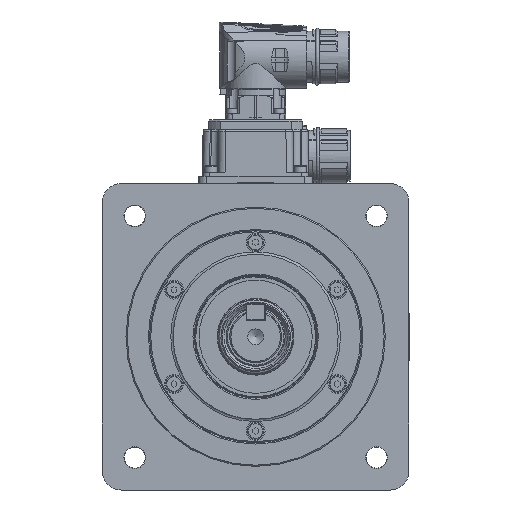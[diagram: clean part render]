
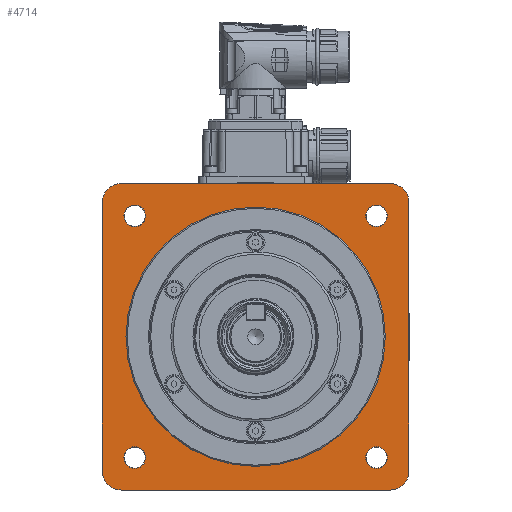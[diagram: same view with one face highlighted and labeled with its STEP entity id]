
A CAD part, front view. The second image highlights one B-rep face of the part: STEP entity #4714.
In plain terms, the highlighted planar face has unit normal (0, -1, 0).
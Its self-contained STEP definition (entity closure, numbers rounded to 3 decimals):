
#4714 = ADVANCED_FACE( '', ( #11225, #11226, #11227, #11228, #11229, #11230 ), #11231, .F. );
#11225 = FACE_BOUND( '', #25073, .T. );
#11226 = FACE_OUTER_BOUND( '', #25074, .T. );
#11227 = FACE_BOUND( '', #25075, .T. );
#11228 = FACE_BOUND( '', #25076, .T. );
#11229 = FACE_BOUND( '', #25077, .T. );
#11230 = FACE_BOUND( '', #25078, .T. );
#11231 = PLANE( '', #25079 );
#25073 = EDGE_LOOP( '', ( #46541 ) );
#25074 = EDGE_LOOP( '', ( #46542, #46543, #46544, #46545, #46546, #46547, #46548, #46549 ) );
#25075 = EDGE_LOOP( '', ( #46550 ) );
#25076 = EDGE_LOOP( '', ( #46551 ) );
#25077 = EDGE_LOOP( '', ( #46552 ) );
#25078 = EDGE_LOOP( '', ( #46553 ) );
#25079 = AXIS2_PLACEMENT_3D( '', #46554, #46555, #46556 );
#46541 = ORIENTED_EDGE( '', *, *, #64559, .F. );
#46542 = ORIENTED_EDGE( '', *, *, #64432, .F. );
#46543 = ORIENTED_EDGE( '', *, *, #61283, .T. );
#46544 = ORIENTED_EDGE( '', *, *, #64560, .F. );
#46545 = ORIENTED_EDGE( '', *, *, #63504, .T. );
#46546 = ORIENTED_EDGE( '', *, *, #61152, .F. );
#46547 = ORIENTED_EDGE( '', *, *, #64561, .T. );
#46548 = ORIENTED_EDGE( '', *, *, #63244, .F. );
#46549 = ORIENTED_EDGE( '', *, *, #63826, .T. );
#46550 = ORIENTED_EDGE( '', *, *, #64562, .F. );
#46551 = ORIENTED_EDGE( '', *, *, #63670, .F. );
#46552 = ORIENTED_EDGE( '', *, *, #63086, .F. );
#46553 = ORIENTED_EDGE( '', *, *, #63813, .F. );
#46554 = CARTESIAN_POINT( '', ( 0., -32.91, 55. ) );
#46555 = DIRECTION( '', ( 0., 1., 0. ) );
#46556 = DIRECTION( '', ( 0., 0., 1. ) );
#61152 = EDGE_CURVE( '', #71586, #71589, #71590, .F. );
#61283 = EDGE_CURVE( '', #71814, #71812, #71815, .T. );
#63086 = EDGE_CURVE( '', #74737, #74737, #74738, .F. );
#63244 = EDGE_CURVE( '', #74979, #74981, #74982, .F. );
#63504 = EDGE_CURVE( '', #75371, #71589, #75372, .T. );
#63670 = EDGE_CURVE( '', #75622, #75622, #75623, .F. );
#63813 = EDGE_CURVE( '', #75836, #75836, #75837, .F. );
#63826 = EDGE_CURVE( '', #74979, #75854, #75856, .T. );
#64432 = EDGE_CURVE( '', #71814, #75854, #76769, .F. );
#64559 = EDGE_CURVE( '', #76951, #76951, #76952, .T. );
#64560 = EDGE_CURVE( '', #75371, #71812, #76953, .F. );
#64561 = EDGE_CURVE( '', #71586, #74981, #76954, .T. );
#64562 = EDGE_CURVE( '', #76955, #76955, #76956, .F. );
#71586 = VERTEX_POINT( '', #89190 );
#71589 = VERTEX_POINT( '', #89194 );
#71590 = CIRCLE( '', #89195, 8. );
#71812 = VERTEX_POINT( '', #89565 );
#71814 = VERTEX_POINT( '', #89568 );
#71815 = LINE( '', #89569, #89570 );
#74737 = VERTEX_POINT( '', #95944 );
#74738 = CIRCLE( '', #95945, 4.6 );
#74979 = VERTEX_POINT( '', #96610 );
#74981 = VERTEX_POINT( '', #96613 );
#74982 = CIRCLE( '', #96614, 8. );
#75371 = VERTEX_POINT( '', #97580 );
#75372 = LINE( '', #97581, #97582 );
#75622 = VERTEX_POINT( '', #98259 );
#75623 = CIRCLE( '', #98260, 4.6 );
#75836 = VERTEX_POINT( '', #98877 );
#75837 = CIRCLE( '', #98878, 4.6 );
#75854 = VERTEX_POINT( '', #98976 );
#75856 = LINE( '', #98979, #98980 );
#76769 = CIRCLE( '', #101155, 8. );
#76951 = VERTEX_POINT( '', #101536 );
#76952 = CIRCLE( '', #101537, 55. );
#76953 = CIRCLE( '', #101538, 8. );
#76954 = LINE( '', #101539, #101540 );
#76955 = VERTEX_POINT( '', #101541 );
#76956 = CIRCLE( '', #101542, 4.6 );
#89190 = CARTESIAN_POINT( '', ( 65., -32.91, -57. ) );
#89194 = CARTESIAN_POINT( '', ( 57., -32.91, -65. ) );
#89195 = AXIS2_PLACEMENT_3D( '', #113907, #113908, #113909 );
#89565 = CARTESIAN_POINT( '', ( -65., -32.91, -57. ) );
#89568 = CARTESIAN_POINT( '', ( -65., -32.91, 57. ) );
#89569 = CARTESIAN_POINT( '', ( -65., -32.91, 65. ) );
#89570 = VECTOR( '', #114080, 1000. );
#95944 = CARTESIAN_POINT( '', ( 51.265, -32.91, -46.665 ) );
#95945 = AXIS2_PLACEMENT_3D( '', #116284, #116285, #116286 );
#96610 = CARTESIAN_POINT( '', ( 57., -32.91, 65. ) );
#96613 = CARTESIAN_POINT( '', ( 65., -32.91, 57. ) );
#96614 = AXIS2_PLACEMENT_3D( '', #116435, #116436, #116437 );
#97580 = CARTESIAN_POINT( '', ( -57., -32.91, -65. ) );
#97581 = CARTESIAN_POINT( '', ( -65., -32.91, -65. ) );
#97582 = VECTOR( '', #116739, 1000. );
#98259 = CARTESIAN_POINT( '', ( -51.265, -32.91, -46.665 ) );
#98260 = AXIS2_PLACEMENT_3D( '', #116904, #116905, #116906 );
#98877 = CARTESIAN_POINT( '', ( 51.265, -32.91, 55.866 ) );
#98878 = AXIS2_PLACEMENT_3D( '', #117062, #117063, #117064 );
#98976 = CARTESIAN_POINT( '', ( -57., -32.91, 65. ) );
#98979 = CARTESIAN_POINT( '', ( 65., -32.91, 65. ) );
#98980 = VECTOR( '', #117079, 1000. );
#101155 = AXIS2_PLACEMENT_3D( '', #117796, #117797, #117798 );
#101536 = CARTESIAN_POINT( '', ( 0., -32.91, -55. ) );
#101537 = AXIS2_PLACEMENT_3D( '', #117911, #117912, #117913 );
#101538 = AXIS2_PLACEMENT_3D( '', #117914, #117915, #117916 );
#101539 = CARTESIAN_POINT( '', ( 65., -32.91, -65. ) );
#101540 = VECTOR( '', #117917, 1000. );
#101541 = CARTESIAN_POINT( '', ( -51.265, -32.91, 55.866 ) );
#101542 = AXIS2_PLACEMENT_3D( '', #117918, #117919, #117920 );
#113907 = CARTESIAN_POINT( '', ( 57., -32.91, -57. ) );
#113908 = DIRECTION( '', ( 0., -1., 0. ) );
#113909 = DIRECTION( '', ( 0., 0., -1. ) );
#114080 = DIRECTION( '', ( 0., 0., -1. ) );
#116284 = CARTESIAN_POINT( '', ( 51.265, -32.91, -51.265 ) );
#116285 = DIRECTION( '', ( 0., 1., 0. ) );
#116286 = DIRECTION( '', ( 0., 0., 1. ) );
#116435 = CARTESIAN_POINT( '', ( 57., -32.91, 57. ) );
#116436 = DIRECTION( '', ( 0., -1., 0. ) );
#116437 = DIRECTION( '', ( 0., 0., -1. ) );
#116739 = DIRECTION( '', ( 1., 0., 0. ) );
#116904 = CARTESIAN_POINT( '', ( -51.265, -32.91, -51.265 ) );
#116905 = DIRECTION( '', ( 0., 1., 0. ) );
#116906 = DIRECTION( '', ( 0., 0., 1. ) );
#117062 = CARTESIAN_POINT( '', ( 51.265, -32.91, 51.265 ) );
#117063 = DIRECTION( '', ( 0., 1., 0. ) );
#117064 = DIRECTION( '', ( 0., 0., 1. ) );
#117079 = DIRECTION( '', ( -1., 0., 0. ) );
#117796 = CARTESIAN_POINT( '', ( -57., -32.91, 57. ) );
#117797 = DIRECTION( '', ( 0., -1., 0. ) );
#117798 = DIRECTION( '', ( 0., 0., -1. ) );
#117911 = CARTESIAN_POINT( '', ( 0., -32.91, 0. ) );
#117912 = DIRECTION( '', ( 0., -1., 0. ) );
#117913 = DIRECTION( '', ( 0., 0., -1. ) );
#117914 = CARTESIAN_POINT( '', ( -57., -32.91, -57. ) );
#117915 = DIRECTION( '', ( 0., -1., 0. ) );
#117916 = DIRECTION( '', ( 0., 0., -1. ) );
#117917 = DIRECTION( '', ( 0., 0., 1. ) );
#117918 = CARTESIAN_POINT( '', ( -51.265, -32.91, 51.265 ) );
#117919 = DIRECTION( '', ( 0., 1., 0. ) );
#117920 = DIRECTION( '', ( 0., 0., 1. ) );
